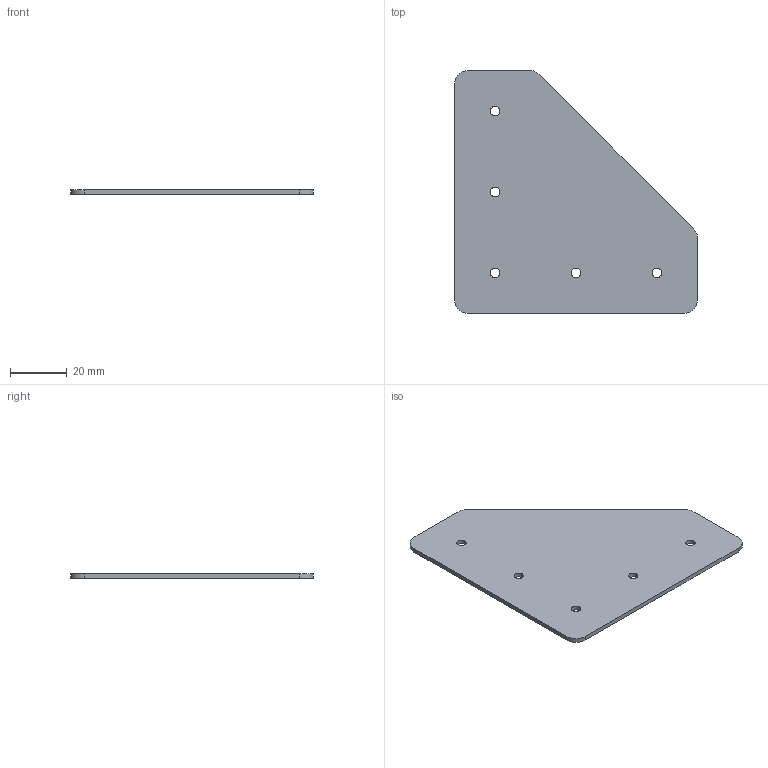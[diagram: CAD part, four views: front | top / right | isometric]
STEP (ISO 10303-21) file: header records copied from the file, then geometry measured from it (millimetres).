
FILE_DESCRIPTION (( 'STEP AP214' ), '1' );
FILE_NAME ('DRP-002-0003-01.step', '2010-06-23T19:06:18', ( '' ), ( '' ), 'SwSTEP 2.0', 'SolidWorks 2010', '' );
FILE_SCHEMA (( 'AUTOMOTIVE_DESIGN' ));
Length unit declared in the file: inch
Products named in the file (1): DRP-002-0003-01
Bounding box: 85.72 x 85.72 x 1.59 mm (x, y, z)
Volume: 8980.2 mm3; surface area: 11876.6 mm2
Topology: 1 solids, 1 shells, 22 faces, 60 edges, 40 vertices
Faces by surface type: cylinder 15, plane 7
Entity records: 774 total; most frequent: DIRECTION 136, CARTESIAN_POINT 123, ORIENTED_EDGE 120, EDGE_CURVE 60, AXIS2_PLACEMENT_3D 53, VERTEX_POINT 40, EDGE_LOOP 32, CIRCLE 30
